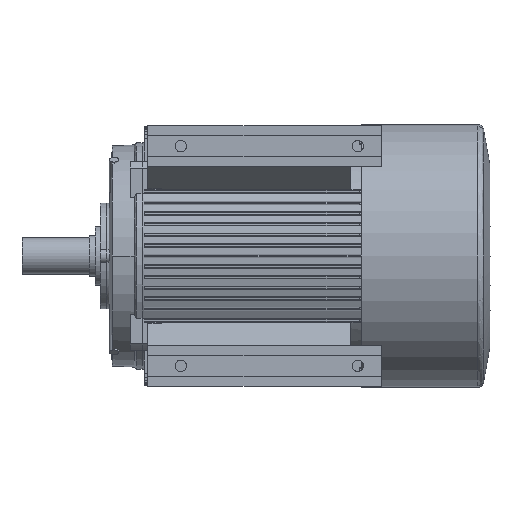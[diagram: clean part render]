
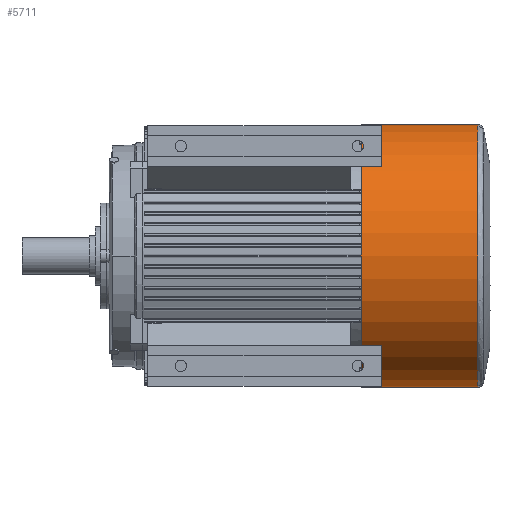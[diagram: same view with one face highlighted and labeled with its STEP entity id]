
A CAD part, front view. The second image highlights one B-rep face of the part: STEP entity #5711.
In plain terms, the highlighted cylindrical face has radius 273.5 mm (diameter 547 mm), a partial arc.
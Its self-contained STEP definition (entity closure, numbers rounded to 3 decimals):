
#1589 = EDGE_LOOP ( 'NONE', ( #24047, #24145, #24125, #24139 ) ) ;
#3614 = DIRECTION ( 'NONE',  ( 0., 0., 1. ) ) ;
#3638 = CARTESIAN_POINT ( 'NONE',  ( -98.835, 0., 0. ) ) ;
#3640 = DIRECTION ( 'NONE',  ( -1., 0., 0. ) ) ;
#5711 = ADVANCED_FACE ( 'NONE', ( #13226 ), #13235, .T. ) ;
#6127 = AXIS2_PLACEMENT_3D ( 'NONE', #3638, #3640, #3614 ) ;
#9186 = LINE ( 'NONE', #20458, #9205 ) ;
#9205 = VECTOR ( 'NONE', #20466, 1000. ) ;
#9225 = CIRCLE ( 'NONE', #17764, 273.5 ) ;
#9227 = LINE ( 'NONE', #11764, #9236 ) ;
#9236 = VECTOR ( 'NONE', #11733, 1000. ) ;
#9351 = CIRCLE ( 'NONE', #17858, 273.5 ) ;
#11726 = DIRECTION ( 'NONE',  ( 0., 0., 1. ) ) ;
#11728 = DIRECTION ( 'NONE',  ( -1., 0., 0. ) ) ;
#11732 = CARTESIAN_POINT ( 'NONE',  ( 242.777, 0., 0. ) ) ;
#11733 = DIRECTION ( 'NONE',  ( -1., 0., 0. ) ) ;
#11764 = CARTESIAN_POINT ( 'NONE',  ( -98.835, 0., 273.5 ) ) ;
#12329 = DIRECTION ( 'NONE',  ( 1., 0., 0. ) ) ;
#12346 = DIRECTION ( 'NONE',  ( 0., 0., 1. ) ) ;
#12369 = CARTESIAN_POINT ( 'NONE',  ( 0., 0., 0. ) ) ;
#13226 = FACE_OUTER_BOUND ( 'NONE', #1589, .T. ) ;
#13235 = CYLINDRICAL_SURFACE ( 'NONE', #6127, 273.5 ) ;
#17764 = AXIS2_PLACEMENT_3D ( 'NONE', #11732, #11728, #11726 ) ;
#17858 = AXIS2_PLACEMENT_3D ( 'NONE', #12369, #12329, #12346 ) ;
#20458 = CARTESIAN_POINT ( 'NONE',  ( -98.835, 0., -273.5 ) ) ;
#20466 = DIRECTION ( 'NONE',  ( -1., 0., 0. ) ) ;
#21654 = EDGE_CURVE ( 'NONE', #23730, #23755, #9186, .T. ) ;
#21677 = EDGE_CURVE ( 'NONE', #23730, #23788, #9225, .T. ) ;
#21678 = EDGE_CURVE ( 'NONE', #23788, #23731, #9227, .T. ) ;
#21747 = EDGE_CURVE ( 'NONE', #23731, #23755, #9351, .T. ) ;
#23730 = VERTEX_POINT ( 'NONE', #27653 ) ;
#23731 = VERTEX_POINT ( 'NONE', #27603 ) ;
#23755 = VERTEX_POINT ( 'NONE', #27620 ) ;
#23788 = VERTEX_POINT ( 'NONE', #27708 ) ;
#24047 = ORIENTED_EDGE ( 'NONE', *, *, #21654, .F. ) ;
#24125 = ORIENTED_EDGE ( 'NONE', *, *, #21678, .T. ) ;
#24139 = ORIENTED_EDGE ( 'NONE', *, *, #21747, .T. ) ;
#24145 = ORIENTED_EDGE ( 'NONE', *, *, #21677, .T. ) ;
#27603 = CARTESIAN_POINT ( 'NONE',  ( 0., 0., 273.5 ) ) ;
#27620 = CARTESIAN_POINT ( 'NONE',  ( 0., 0., -273.5 ) ) ;
#27653 = CARTESIAN_POINT ( 'NONE',  ( 242.777, 0., -273.5 ) ) ;
#27708 = CARTESIAN_POINT ( 'NONE',  ( 242.777, 0., 273.5 ) ) ;
